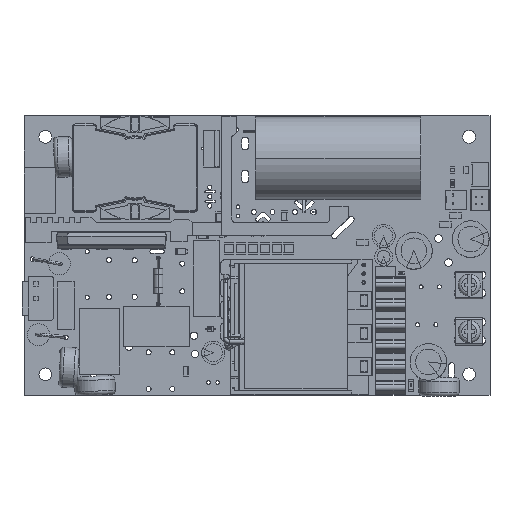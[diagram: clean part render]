
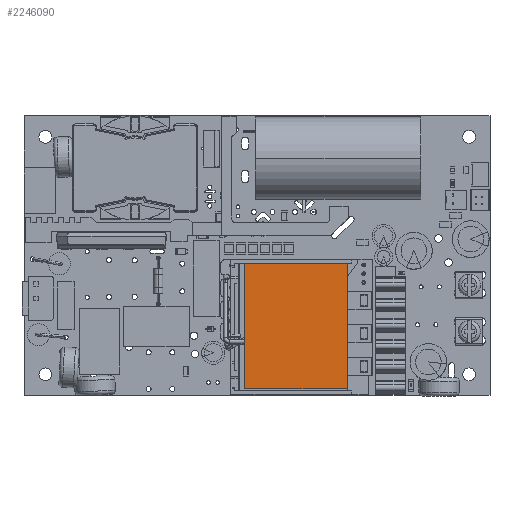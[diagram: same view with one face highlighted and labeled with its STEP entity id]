
A CAD part, top view. The second image highlights one B-rep face of the part: STEP entity #2246090.
In plain terms, the highlighted planar face has unit normal (0, 0, 1).
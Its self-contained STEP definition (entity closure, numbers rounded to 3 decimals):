
#2245110=CARTESIAN_POINT('',(21.25,35.,3.));
#2245120=VERTEX_POINT('',#2245110);
#2245150=CARTESIAN_POINT('',(21.25,35.,3.));
#2245160=DIRECTION('',(0.,-1.,0.));
#2245170=VECTOR('',#2245160,1.);
#2245180=LINE('',#2245150,#2245170);
#2245190=CARTESIAN_POINT('',(21.25,7.,3.));
#2245200=VERTEX_POINT('',#2245190);
#2245210=EDGE_CURVE('',#2245120,#2245200,#2245180,.T.);
#2245420=CARTESIAN_POINT('',(55.25,35.,3.));
#2245430=VERTEX_POINT('',#2245420);
#2245460=CARTESIAN_POINT('',(55.25,35.,3.));
#2245470=DIRECTION('',(-1.,0.,0.));
#2245480=VECTOR('',#2245470,1.);
#2245490=LINE('',#2245460,#2245480);
#2245500=EDGE_CURVE('',#2245430,#2245120,#2245490,.T.);
#2245660=CARTESIAN_POINT('',(55.25,7.,3.));
#2245670=VERTEX_POINT('',#2245660);
#2245700=CARTESIAN_POINT('',(55.25,7.,3.));
#2245710=DIRECTION('',(0.,1.,0.));
#2245720=VECTOR('',#2245710,1.);
#2245730=LINE('',#2245700,#2245720);
#2245740=EDGE_CURVE('',#2245670,#2245430,#2245730,.T.);
#2245870=CARTESIAN_POINT('',(21.25,7.,3.));
#2245880=DIRECTION('',(1.,0.,0.));
#2245890=VECTOR('',#2245880,1.);
#2245900=LINE('',#2245870,#2245890);
#2245910=EDGE_CURVE('',#2245200,#2245670,#2245900,.T.);
#2245980=CARTESIAN_POINT('',(0.,0.,3.));
#2245990=DIRECTION('',(0.,0.,1.));
#2246000=DIRECTION('',(1.,0.,0.));
#2246010=AXIS2_PLACEMENT_3D('',#2245980,#2245990,#2246000);
#2246020=PLANE('',#2246010);
#2246030=ORIENTED_EDGE('',*,*,#2245210,.T.);
#2246040=ORIENTED_EDGE('',*,*,#2245500,.T.);
#2246050=ORIENTED_EDGE('',*,*,#2245740,.T.);
#2246060=ORIENTED_EDGE('',*,*,#2245910,.T.);
#2246070=EDGE_LOOP('',(#2246060,#2246050,#2246040,#2246030));
#2246080=FACE_OUTER_BOUND('',#2246070,.T.);
#2246090=ADVANCED_FACE('',(#2246080),#2246020,.T.);
